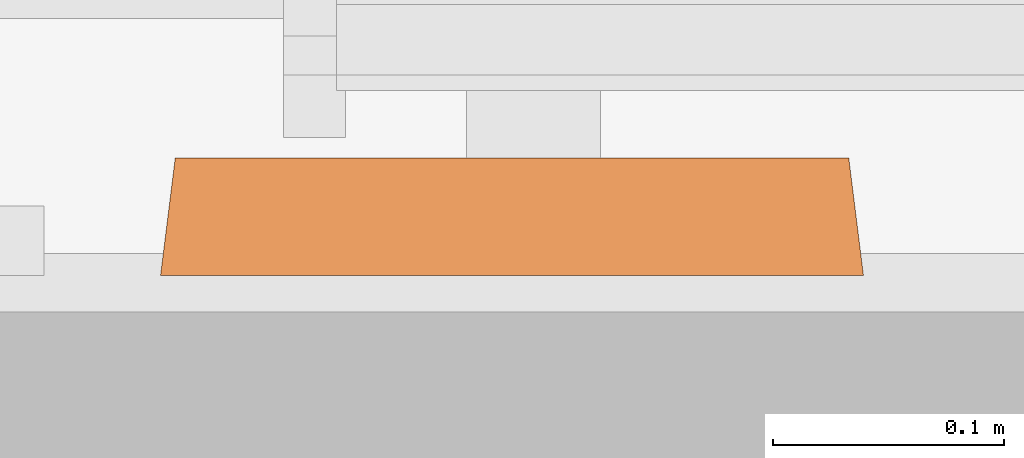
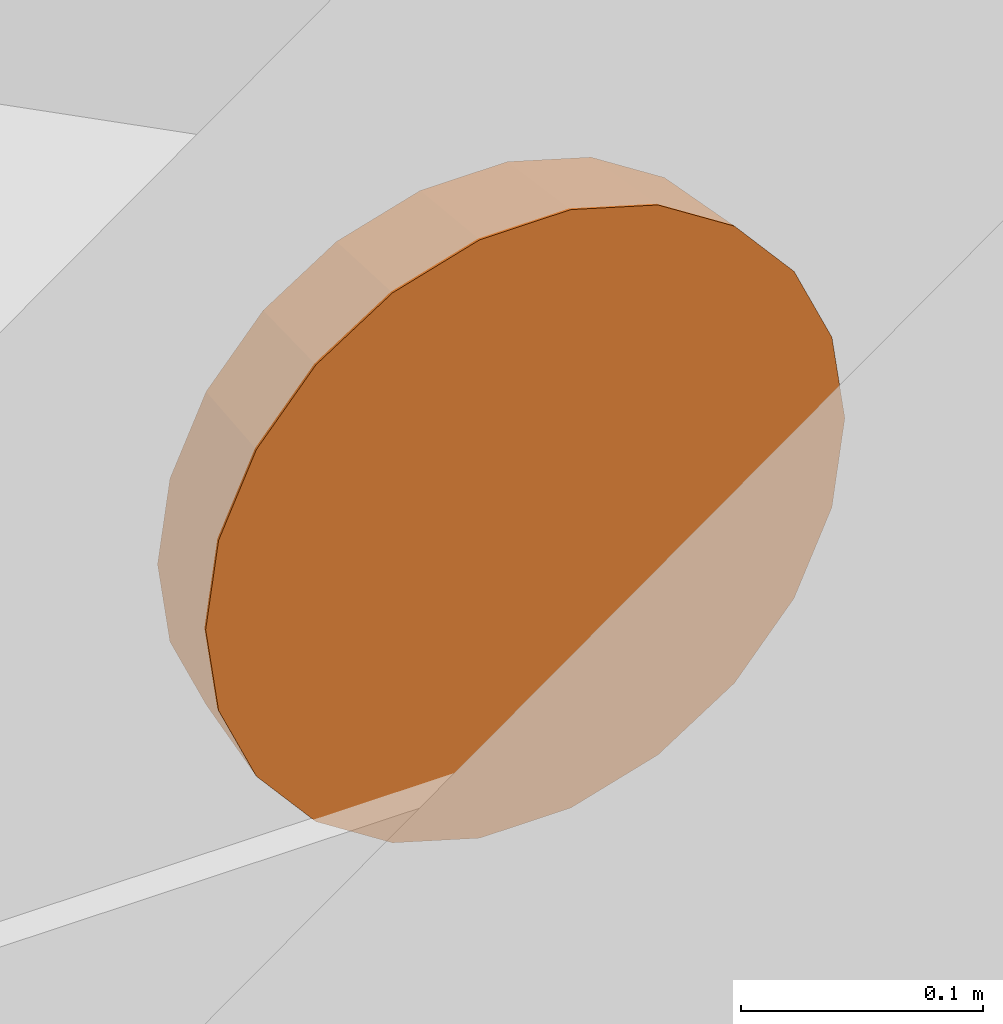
# One storey, part 105 of 142: 1 proxy.
"""IFC2X3 building model written with IfcOpenShell, lengths in feet."""

from ifc_helpers import new_model, entity, si_unit, converted_unit, derived_unit, direction, frame, origin, place, context, subcontext, project, spatial, faceted_brep, source, transform, mapped, type_object, type_shapes, element, save


model = new_model("IFC2X3")

# Units and contexts
model_context = context("Model", 3, precision=0.0001, world=origin(), true_north=direction((6.12303176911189e-17, 1.0)))
body_context = subcontext(model_context, "Body", "Model", "MODEL_VIEW")
ifc_project = project(units=[converted_unit("LENGTHUNIT", "FOOT", entity("IfcRatioMeasure", 0.3048), si_unit("LENGTHUNIT", "METRE"), dimensions=[1, 0, 0, 0, 0, 0, 0]), converted_unit("AREAUNIT", "SQUARE FOOT", entity("IfcRatioMeasure", 0.09290304), si_unit("AREAUNIT", "SQUARE_METRE"), dimensions=[2, 0, 0, 0, 0, 0, 0]), converted_unit("VOLUMEUNIT", "CUBIC FOOT", entity("IfcRatioMeasure", 0.028316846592), si_unit("VOLUMEUNIT", "CUBIC_METRE"), dimensions=[3, 0, 0, 0, 0, 0, 0]), converted_unit("PLANEANGLEUNIT", "DEGREE", entity("IfcRatioMeasure", 0.0174532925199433), si_unit("PLANEANGLEUNIT", "RADIAN"), dimensions=[0, 0, 0, 0, 0, 0, 0]), si_unit("MASSUNIT", "GRAM", prefix="KILO"), derived_unit("MASSDENSITYUNIT", [(si_unit("MASSUNIT", "GRAM", prefix="KILO"), 1), (si_unit("LENGTHUNIT", "METRE"), -3)]), si_unit("TIMEUNIT", "SECOND"), si_unit("FREQUENCYUNIT", "HERTZ"), si_unit("THERMODYNAMICTEMPERATUREUNIT", "DEGREE_CELSIUS"), derived_unit("THERMALTRANSMITTANCEUNIT", [(si_unit("MASSUNIT", "GRAM", prefix="KILO"), 1), (si_unit("THERMODYNAMICTEMPERATUREUNIT", "KELVIN"), -1), (si_unit("TIMEUNIT", "SECOND"), -3)]), derived_unit("VOLUMETRICFLOWRATEUNIT", [(si_unit("LENGTHUNIT", "METRE"), 3), (si_unit("TIMEUNIT", "SECOND"), -1)]), si_unit("ELECTRICCURRENTUNIT", "AMPERE"), si_unit("ELECTRICVOLTAGEUNIT", "VOLT"), si_unit("POWERUNIT", "WATT"), si_unit("FORCEUNIT", "NEWTON"), si_unit("ILLUMINANCEUNIT", "LUX"), si_unit("LUMINOUSFLUXUNIT", "LUMEN"), si_unit("LUMINOUSINTENSITYUNIT", "CANDELA"), derived_unit("USERDEFINED", [(si_unit("MASSUNIT", "GRAM", prefix="KILO"), -1), (si_unit("LENGTHUNIT", "METRE"), -2), (si_unit("TIMEUNIT", "SECOND"), 3), (si_unit("LUMINOUSFLUXUNIT", "LUMEN"), 1)]), derived_unit("LINEARVELOCITYUNIT", [(si_unit("LENGTHUNIT", "METRE"), 1), (si_unit("TIMEUNIT", "SECOND"), -1)]), si_unit("PRESSUREUNIT", "PASCAL"), derived_unit("USERDEFINED", [(si_unit("LENGTHUNIT", "METRE"), -2), (si_unit("MASSUNIT", "GRAM", prefix="KILO"), 1), (si_unit("TIMEUNIT", "SECOND"), -2)])], contexts=[model_context])

# Site, building, storey, space
site_placement = place(None, origin())
site = spatial("IfcSite", under=ifc_project, at=site_placement, Name="Default", CompositionType="ELEMENT")
building_placement = place(site_placement, origin())
building = spatial("IfcBuilding", under=site, at=building_placement, Name="OUTPATIENT / PACT CLINIC (Ch. 265)", CompositionType="ELEMENT")
storey_placement = place(building_placement, origin())
storey = spatial("IfcBuildingStorey", under=building, at=storey_placement, Name="LEVEL 1", CompositionType="ELEMENT", Elevation=0.0)
space_placement = place(storey_placement, origin())
space = spatial("IfcSpace", under=storey, at=space_placement, Name="EXPA1", CompositionType="ELEMENT", InteriorOrExteriorSpace="INTERNAL")

# Proxy
building_element_proxy_type = type_object("IfcBuildingElementProxyType", Name="F3200 - Clock, Battery, 12in Dia", PredefinedType="NOTDEFINED")
shared_shape = source(origin(), body_context, "Body", "Brep", [
    faceted_brep([(0.0527623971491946, -0.166666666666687, -0.0087350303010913), (0.143371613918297, -0.166666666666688, 0.0607918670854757), (0.212898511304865, -0.16666666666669, 0.151401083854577), (0.256604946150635, -0.166666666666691, 0.256917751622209), (0.271512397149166, -0.166666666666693, 0.370151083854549), (0.256604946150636, -0.166666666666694, 0.483384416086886), (0.212898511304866, -0.166666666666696, 0.588901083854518), (0.143371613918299, -0.166666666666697, 0.67951030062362), (0.052762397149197, -0.166666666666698, 0.749037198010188), (-0.0527542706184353, -0.166666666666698, 0.792743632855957), (-0.165987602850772, -0.166666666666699, 0.807651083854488), (-0.279220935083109, -0.166666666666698, 0.792743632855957), (-0.384737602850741, -0.166666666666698, 0.749037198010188), (-0.475346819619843, -0.166666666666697, 0.679510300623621), (-0.544873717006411, -0.166666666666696, 0.588901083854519), (-0.588580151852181, -0.166666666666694, 0.483384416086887), (-0.603487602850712, -0.166666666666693, 0.37015108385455), (-0.588580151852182, -0.166666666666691, 0.256917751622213), (-0.544873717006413, -0.16666666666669, 0.151401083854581), (-0.475346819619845, -0.166666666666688, 0.0607918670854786), (-0.384737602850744, -0.166666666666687, -0.0087350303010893), (-0.279220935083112, -0.166666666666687, -0.052441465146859), (-0.165987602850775, -0.166666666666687, -0.0673489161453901), (-0.0527542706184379, -0.166666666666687, -0.0524414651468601), (0.256604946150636, -0.145833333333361, 0.483384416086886), (0.271512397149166, -0.145833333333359, 0.370151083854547), (0.256604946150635, -0.145833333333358, 0.256917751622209), (0.212898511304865, -0.145833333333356, 0.151401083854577), (0.143371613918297, -0.145833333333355, 0.0607918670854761), (0.0527623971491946, -0.145833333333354, -0.00873503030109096), (-0.0527542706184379, -0.145833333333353, -0.0524414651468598), (-0.165987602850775, -0.145833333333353, -0.0673489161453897), (-0.279220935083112, -0.145833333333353, -0.0524414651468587), (-0.384737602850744, -0.145833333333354, -0.00873503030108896), (-0.475346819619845, -0.145833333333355, 0.060791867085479), (-0.544873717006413, -0.145833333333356, 0.151401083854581), (-0.588580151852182, -0.145833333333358, 0.256917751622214), (-0.603487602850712, -0.145833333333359, 0.37015108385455), (-0.588580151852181, -0.145833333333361, 0.483384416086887), (-0.544873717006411, -0.145833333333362, 0.588901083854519), (-0.475346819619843, -0.145833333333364, 0.679510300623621), (-0.384737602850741, -0.145833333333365, 0.749037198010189), (-0.279220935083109, -0.145833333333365, 0.792743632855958), (-0.165987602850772, -0.145833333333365, 0.807651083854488), (-0.0527542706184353, -0.145833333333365, 0.792743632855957), (0.052762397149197, -0.145833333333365, 0.749037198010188), (0.143371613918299, -0.145833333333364, 0.67951030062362), (0.212898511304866, -0.145833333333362, 0.588901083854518)], [[[0, 1, 2, 3, 4, 5, 6, 7, 8, 9, 10, 11, 12, 13, 14, 15, 16, 17, 18, 19, 20, 21, 22, 23]], [[24, 25, 26, 27, 28, 29, 30, 31, 32, 33, 34, 35, 36, 37, 38, 39, 40, 41, 42, 43, 44, 45, 46, 47]], [[36, 17, 16, 37]], [[35, 18, 17, 36]], [[20, 19, 34, 33]], [[35, 34, 19, 18]], [[21, 20, 33, 32]], [[22, 21, 32, 31]], [[30, 23, 22, 31]], [[29, 0, 23, 30]], [[2, 1, 28, 27]], [[29, 28, 1, 0]], [[3, 2, 27, 26]], [[4, 3, 26, 25]], [[24, 5, 4, 25]], [[47, 6, 5, 24]], [[8, 7, 46, 45]], [[47, 46, 7, 6]], [[9, 8, 45, 44]], [[10, 9, 44, 43]], [[11, 10, 43, 42]], [[12, 11, 42, 41]], [[14, 39, 38, 15]], [[15, 38, 37, 16]], [[12, 41, 40, 13]], [[40, 39, 14, 13]]]),
    faceted_brep([(-0.493417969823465, 0.0, -0.00772370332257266), (-0.586614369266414, 0.0, 0.0998306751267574), (-0.165987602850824, 0.0, 0.370151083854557), (-0.373695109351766, 0.0, -0.0846649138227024), (-0.645734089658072, 0.0, 0.229284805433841), (-0.665987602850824, 0.0, 0.370151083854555), (-0.645734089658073, 0.0, 0.51101736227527), (-0.586614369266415, 0.0, 0.640471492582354), (-0.493417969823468, 0.0, 0.748025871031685), (-0.373695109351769, 0.0, 0.824967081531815), (-0.237145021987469, 0.0, 0.865061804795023), (-0.0948301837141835, 0.0, 0.865061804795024), (0.0417199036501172, 0.0, 0.824967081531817), (0.161442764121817, 0.0, 0.748025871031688), (0.254639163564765, 0.0, 0.640471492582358), (0.313758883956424, 0.0, 0.511017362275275), (0.334012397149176, 0.0, 0.370151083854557), (0.313758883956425, 0.0, 0.229284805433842), (0.254639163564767, 0.0, 0.0998306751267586), (0.161442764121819, 0.0, -0.00772370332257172), (0.0417199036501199, 0.0, -0.0846649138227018), (-0.0948301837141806, 0.0, -0.124759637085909), (-0.237145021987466, 0.0, -0.124759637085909), (-0.165987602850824, -0.145833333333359, 0.370151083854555), (-0.534036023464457, -0.145833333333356, 0.133620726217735), (-0.452489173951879, -0.145833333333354, 0.0395106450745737), (-0.585765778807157, -0.145833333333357, 0.246893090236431), (-0.347731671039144, -0.145833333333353, -0.0278129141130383), (-0.228250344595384, -0.145833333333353, -0.0628957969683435), (-0.603487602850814, -0.145833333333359, 0.370151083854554), (-0.103724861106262, -0.145833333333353, -0.0628957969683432), (0.0157564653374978, -0.145833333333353, -0.0278129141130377), (0.120513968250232, -0.145833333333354, 0.0395106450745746), (0.20206081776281, -0.145833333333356, 0.133620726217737), (0.253790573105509, -0.145833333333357, 0.246893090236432), (0.271512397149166, -0.145833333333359, 0.370151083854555), (-0.585765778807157, -0.145833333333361, 0.493409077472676), (-0.534036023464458, -0.145833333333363, 0.606681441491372), (-0.452489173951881, -0.145833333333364, 0.700791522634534), (-0.347731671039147, -0.145833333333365, 0.768115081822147), (-0.228250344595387, -0.145833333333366, 0.803197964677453), (0.253790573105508, -0.145833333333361, 0.49340907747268), (0.202060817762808, -0.145833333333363, 0.606681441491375), (0.12051396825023, -0.145833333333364, 0.700791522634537), (0.0157564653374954, -0.145833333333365, 0.768115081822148), (-0.103724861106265, -0.145833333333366, 0.803197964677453), (0.253790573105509, -0.166666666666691, 0.246893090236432), (0.271512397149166, -0.166666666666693, 0.370151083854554), (0.20206081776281, -0.166666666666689, 0.133620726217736), (-0.103724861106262, -0.166666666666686, -0.0628957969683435), (0.0157564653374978, -0.166666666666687, -0.0278129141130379), (0.120513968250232, -0.166666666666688, 0.0395106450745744), (-0.228250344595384, -0.166666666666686, -0.0628957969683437), (-0.452489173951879, -0.166666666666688, 0.0395106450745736), (-0.347731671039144, -0.166666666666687, -0.0278129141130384), (-0.603487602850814, -0.166666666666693, 0.370151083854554), (-0.585765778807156, -0.166666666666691, 0.246893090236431), (-0.534036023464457, -0.166666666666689, 0.133620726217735), (-0.585765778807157, -0.166666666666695, 0.493409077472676), (-0.534036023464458, -0.166666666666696, 0.606681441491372), (-0.347731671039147, -0.166666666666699, 0.768115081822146), (-0.452489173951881, -0.166666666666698, 0.700791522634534), (-0.228250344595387, -0.166666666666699, 0.803197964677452), (-0.103724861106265, -0.166666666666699, 0.803197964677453), (0.0157564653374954, -0.166666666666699, 0.768115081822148), (0.12051396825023, -0.166666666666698, 0.700791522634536), (0.253790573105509, -0.166666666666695, 0.493409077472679), (0.202060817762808, -0.166666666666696, 0.606681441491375), (-0.62574465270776, -0.166666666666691, 0.235154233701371), (-0.64515426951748, -0.166666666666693, 0.370151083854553), (-0.569088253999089, -0.166666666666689, 0.111094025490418), (-0.479775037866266, -0.166666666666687, 0.00802107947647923), (-0.365040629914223, -0.166666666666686, -0.0657142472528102), (-0.234180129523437, -0.166666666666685, -0.104138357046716), (-0.0977950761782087, -0.166666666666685, -0.104138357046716), (0.0330654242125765, -0.166666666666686, -0.0657142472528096), (0.147799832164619, -0.166666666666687, 0.00802107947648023), (0.237113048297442, -0.166666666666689, 0.11109402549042), (0.293769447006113, -0.166666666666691, 0.235154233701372), (0.313179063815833, -0.166666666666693, 0.370151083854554), (0.293769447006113, -0.166666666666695, 0.50514793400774), (0.237113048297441, -0.166666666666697, 0.629208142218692), (0.147799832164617, -0.166666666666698, 0.732281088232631), (0.0330654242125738, -0.1666666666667, 0.80601641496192), (-0.0977950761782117, -0.1666666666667, 0.844440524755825), (-0.23418012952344, -0.1666666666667, 0.844440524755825), (-0.365040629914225, -0.1666666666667, 0.806016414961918), (-0.479775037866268, -0.166666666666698, 0.732281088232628), (-0.569088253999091, -0.166666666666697, 0.629208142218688), (-0.625744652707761, -0.166666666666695, 0.505147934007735)], [[[0, 1, 2]], [[0, 2, 3]], [[4, 2, 1]], [[2, 4, 5]], [[5, 6, 2]], [[2, 6, 7]], [[2, 7, 8]], [[2, 8, 9]], [[9, 10, 2]], [[11, 2, 10]], [[2, 11, 12]], [[2, 12, 13]], [[14, 2, 13]], [[2, 14, 15]], [[15, 16, 2]], [[2, 16, 17]], [[2, 17, 18]], [[18, 19, 2]], [[19, 20, 2]], [[21, 2, 20]], [[2, 21, 22]], [[22, 3, 2]], [[23, 24, 25]], [[24, 23, 26]], [[27, 23, 25]], [[23, 27, 28]], [[29, 26, 23]], [[28, 30, 23]], [[31, 23, 30]], [[23, 31, 32]], [[23, 32, 33]], [[33, 34, 23]], [[34, 35, 23]], [[23, 36, 29]], [[37, 36, 23]], [[38, 37, 23]], [[39, 38, 23]], [[23, 40, 39]], [[23, 35, 41]], [[41, 42, 23]], [[43, 23, 42]], [[43, 44, 23]], [[44, 45, 23]], [[40, 23, 45]], [[46, 47, 35, 34]], [[46, 34, 33, 48]], [[31, 30, 49, 50]], [[32, 31, 50, 51]], [[51, 48, 33, 32]], [[30, 28, 52, 49]], [[27, 25, 53, 54]], [[28, 27, 54, 52]], [[29, 55, 56, 26]], [[26, 56, 57, 24]], [[24, 57, 53, 25]], [[55, 29, 36, 58]], [[58, 36, 37, 59]], [[60, 61, 38, 39]], [[59, 37, 38, 61]], [[39, 40, 62, 60]], [[40, 45, 63, 62]], [[64, 63, 45, 44]], [[64, 44, 43, 65]], [[41, 35, 47, 66]], [[42, 41, 66, 67]], [[67, 65, 43, 42]], [[68, 55, 69]], [[56, 55, 68]], [[68, 70, 56]], [[70, 57, 56]], [[71, 57, 70]], [[57, 71, 53]], [[72, 53, 71]], [[54, 53, 72]], [[72, 73, 54]], [[73, 52, 54]], [[49, 52, 73]], [[73, 74, 49]], [[74, 50, 49]], [[75, 50, 74]], [[50, 75, 51]], [[76, 51, 75]], [[48, 51, 76]], [[76, 77, 48]], [[77, 46, 48]], [[78, 46, 77]], [[46, 78, 47]], [[78, 79, 47]], [[79, 80, 47]], [[66, 47, 80]], [[80, 81, 66]], [[66, 81, 67]], [[82, 67, 81]], [[67, 82, 65]], [[65, 82, 83]], [[64, 65, 83]], [[83, 84, 64]], [[64, 84, 63]], [[85, 63, 84]], [[63, 85, 62]], [[62, 85, 60]], [[86, 60, 85]], [[60, 86, 61]], [[61, 86, 87]], [[59, 61, 87]], [[87, 88, 59]], [[59, 88, 58]], [[89, 58, 88]], [[55, 89, 69]], [[58, 89, 55]], [[78, 17, 16, 79]], [[77, 18, 17, 78]], [[19, 76, 75, 20]], [[77, 76, 19, 18]], [[20, 75, 74, 21]], [[74, 73, 22, 21]], [[22, 73, 72, 3]], [[0, 3, 72, 71]], [[4, 1, 70, 68]], [[70, 1, 0, 71]], [[5, 4, 68, 69]], [[89, 6, 5, 69]], [[88, 7, 6, 89]], [[8, 87, 86, 9]], [[88, 87, 8, 7]], [[9, 86, 85, 10]], [[85, 84, 11, 10]], [[83, 12, 11, 84]], [[82, 13, 12, 83]], [[14, 81, 80, 15]], [[82, 81, 14, 13]], [[15, 80, 79, 16]]]),
])
type_shapes(building_element_proxy_type, [shared_shape])
proxy_placement = place(space_placement, frame((441.228934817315, -920.837175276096, 6.50000000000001), z_axis=(0.0, 0.0, 1.0), x_axis=(-1.0, 0.0, 0.0)))
element("IfcBuildingElementProxy", 1, at=proxy_placement, inside=space, type_object=building_element_proxy_type, Name="F3200 - Clock, Battery, 12in Dia:F3200 - Clock, Battery, 12in Dia", ObjectType="F3200 - Clock, Battery, 12in Dia", context=body_context, shape_type="MappedRepresentation", body=[
    mapped(shared_shape, transform((0.0, 0.0, 0.0), scale=1.0)),
])

save(model, "model.ifc")
